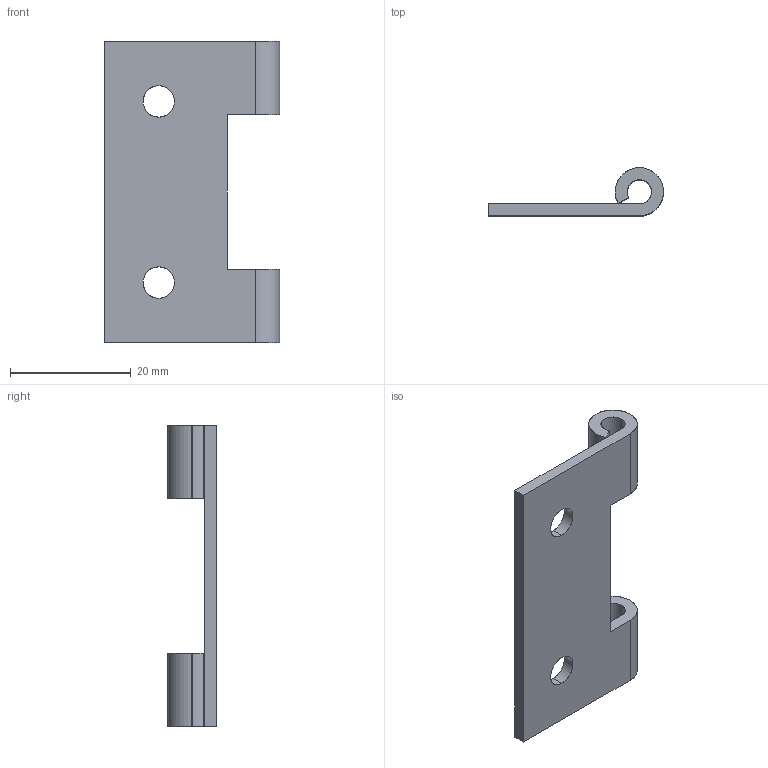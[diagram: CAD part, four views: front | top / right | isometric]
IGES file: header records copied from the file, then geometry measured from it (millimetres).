
Start section: SolidWorks IGES file using analytic representation for surfaces
Global section: file name: C:\Users\cbrechard\Desktop\CC 1422 E\1422.010.00.IGS; native system: SolidWorks 2008; preprocessor: SolidWorks 2008; author: cbrechard; date: 120123.145646; units: millimetre
Bounding box: 29 x 8 x 50 mm (x, y, z)
Surface area: 3445.9 mm2 (no closed solid volume)
Topology: 0 solids, 0 shells, 26 faces, 448 edges, 448 vertices
Faces by surface type: revolution 16, bspline 10
